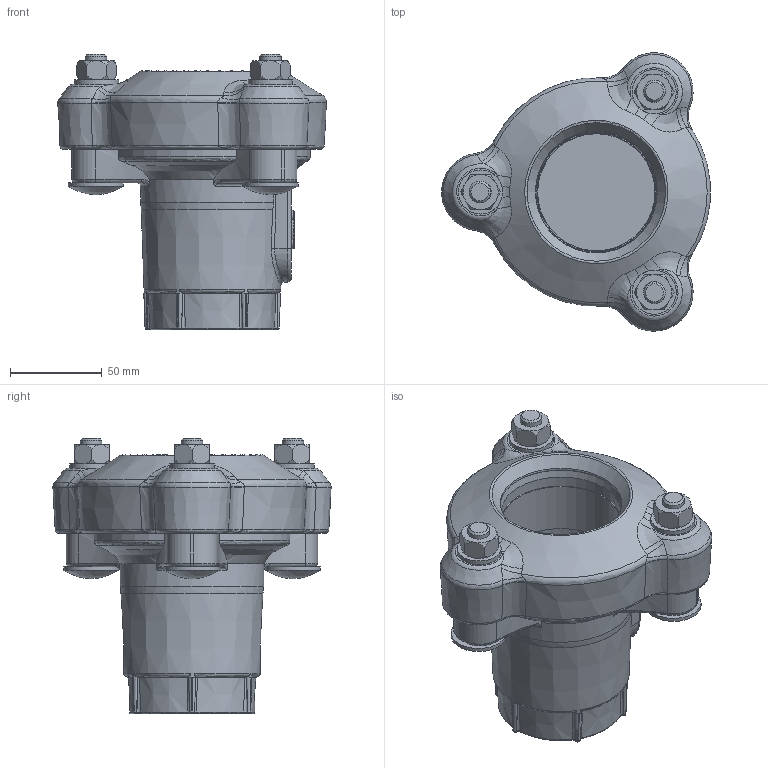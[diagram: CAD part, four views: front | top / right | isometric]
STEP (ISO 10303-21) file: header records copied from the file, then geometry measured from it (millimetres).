
FILE_DESCRIPTION((''),'2;1');
FILE_NAME('P:\Fastrack\54361_VIKING JOHNSON 3D\ULTRAGRIP\Component Parts\Components Built up\End-Cap\40MM-UltraGrip-End-Cap.stp','2012-04-23T10:57:33',('dcole'),(''),'Autodesk Inventor 2008','Autodesk Inventor 2008','');
FILE_SCHEMA(('AUTOMOTIVE_DESIGN { 1 0 10303 214 1 1 1 1 }'));
Length unit declared in the file: millimetre
Products named in the file (1): 40MM-UltraGrip-End-Cap
Bounding box: 146.14 x 151.4 x 150 mm (x, y, z)
Volume: 450420.6 mm3; surface area: 143597.7 mm2
Topology: 1 solids, 1 shells, 587 faces, 1596 edges, 1019 vertices
Faces by surface type: plane 155, cone 132, bspline 109, cylinder 98, torus 93
Full cylindrical faces by diameter (mm): 9 x1, 11.75 x3, 13 x1, 24 x3, 30 x3, 64 x1, 65 x1, 65.593 x1, 66 x1, 68 x1
Entity records: 27248 total; most frequent: CARTESIAN_POINT 12930, ORIENTED_EDGE 3038, DIRECTION 2642, EDGE_CURVE 1519, AXIS2_PLACEMENT_3D 1135, VERTEX_POINT 986, EDGE_LOOP 657, CIRCLE 648
